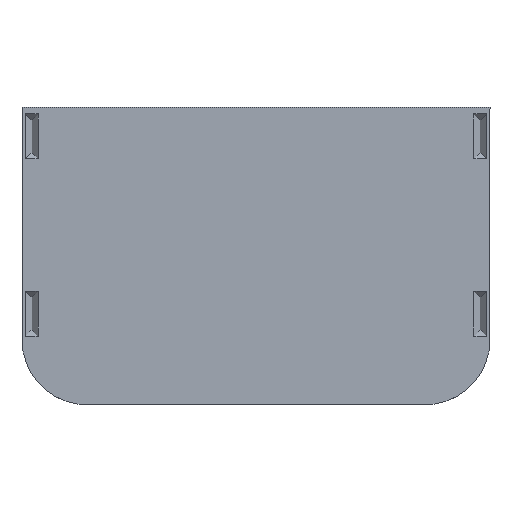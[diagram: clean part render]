
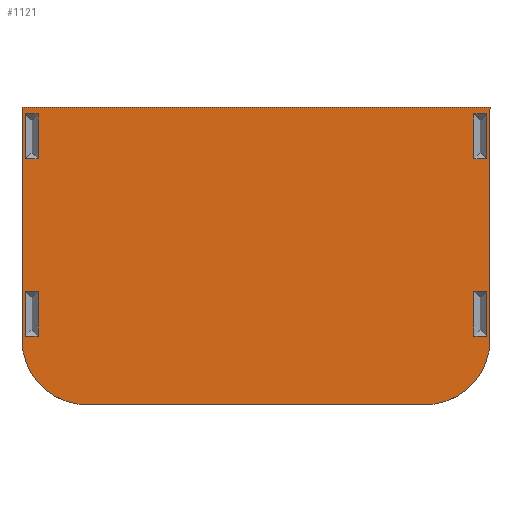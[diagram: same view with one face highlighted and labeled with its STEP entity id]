
A CAD part, top view. The second image highlights one B-rep face of the part: STEP entity #1121.
In plain terms, the highlighted planar face has unit normal (0, 0, 1).
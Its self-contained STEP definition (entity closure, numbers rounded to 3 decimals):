
#24=FACE_BOUND('',#233,.T.);
#25=FACE_BOUND('',#234,.T.);
#26=FACE_BOUND('',#235,.T.);
#27=FACE_BOUND('',#236,.T.);
#91=PLANE('',#1224);
#159=FACE_OUTER_BOUND('',#232,.T.);
#232=EDGE_LOOP('',(#1024,#1025,#1026,#1027,#1028,#1029));
#233=EDGE_LOOP('',(#1030,#1031,#1032,#1033));
#234=EDGE_LOOP('',(#1034,#1035,#1036,#1037));
#235=EDGE_LOOP('',(#1038,#1039,#1040,#1041));
#236=EDGE_LOOP('',(#1042,#1043,#1044,#1045));
#291=LINE('',#1704,#416);
#297=LINE('',#1715,#422);
#299=LINE('',#1719,#424);
#300=LINE('',#1721,#425);
#311=LINE('',#1745,#436);
#314=LINE('',#1750,#439);
#322=LINE('',#1768,#447);
#327=LINE('',#1777,#452);
#330=LINE('',#1783,#455);
#331=LINE('',#1785,#456);
#342=LINE('',#1809,#467);
#345=LINE('',#1814,#470);
#346=LINE('',#1817,#471);
#348=LINE('',#1820,#473);
#349=LINE('',#1823,#474);
#351=LINE('',#1826,#476);
#353=LINE('',#1831,#478);
#356=LINE('',#1836,#481);
#358=LINE('',#1840,#483);
#361=LINE('',#1848,#486);
#416=VECTOR('',#1384,10.);
#422=VECTOR('',#1396,10.);
#424=VECTOR('',#1400,10.);
#425=VECTOR('',#1403,10.);
#436=VECTOR('',#1424,10.);
#439=VECTOR('',#1429,10.);
#447=VECTOR('',#1443,10.);
#452=VECTOR('',#1452,10.);
#455=VECTOR('',#1459,10.);
#456=VECTOR('',#1462,10.);
#467=VECTOR('',#1483,10.);
#470=VECTOR('',#1488,10.);
#471=VECTOR('',#1491,10.);
#473=VECTOR('',#1495,10.);
#474=VECTOR('',#1498,10.);
#476=VECTOR('',#1502,10.);
#478=VECTOR('',#1506,10.);
#481=VECTOR('',#1511,10.);
#483=VECTOR('',#1515,10.);
#486=VECTOR('',#1524,10.);
#505=CIRCLE('',#1220,29.);
#506=CIRCLE('',#1223,29.);
#558=VERTEX_POINT('',#1701);
#559=VERTEX_POINT('',#1703);
#561=VERTEX_POINT('',#1713);
#562=VERTEX_POINT('',#1717);
#569=VERTEX_POINT('',#1742);
#570=VERTEX_POINT('',#1744);
#571=VERTEX_POINT('',#1748);
#577=VERTEX_POINT('',#1765);
#578=VERTEX_POINT('',#1767);
#580=VERTEX_POINT('',#1775);
#581=VERTEX_POINT('',#1781);
#588=VERTEX_POINT('',#1806);
#589=VERTEX_POINT('',#1808);
#590=VERTEX_POINT('',#1812);
#591=VERTEX_POINT('',#1816);
#592=VERTEX_POINT('',#1822);
#593=VERTEX_POINT('',#1828);
#594=VERTEX_POINT('',#1830);
#595=VERTEX_POINT('',#1834);
#596=VERTEX_POINT('',#1838);
#597=VERTEX_POINT('',#1842);
#598=VERTEX_POINT('',#1846);
#675=EDGE_CURVE('',#559,#558,#291,.T.);
#681=EDGE_CURVE('',#558,#561,#297,.T.);
#683=EDGE_CURVE('',#561,#562,#299,.T.);
#684=EDGE_CURVE('',#562,#559,#300,.T.);
#695=EDGE_CURVE('',#570,#569,#311,.T.);
#698=EDGE_CURVE('',#569,#571,#314,.T.);
#706=EDGE_CURVE('',#578,#577,#322,.T.);
#711=EDGE_CURVE('',#577,#580,#327,.T.);
#714=EDGE_CURVE('',#580,#581,#330,.T.);
#715=EDGE_CURVE('',#581,#578,#331,.T.);
#726=EDGE_CURVE('',#589,#588,#342,.T.);
#729=EDGE_CURVE('',#588,#590,#345,.T.);
#730=EDGE_CURVE('',#591,#589,#346,.T.);
#732=EDGE_CURVE('',#590,#591,#348,.T.);
#733=EDGE_CURVE('',#592,#570,#349,.T.);
#735=EDGE_CURVE('',#571,#592,#351,.T.);
#737=EDGE_CURVE('',#593,#594,#353,.T.);
#740=EDGE_CURVE('',#595,#593,#356,.T.);
#742=EDGE_CURVE('',#596,#595,#358,.T.);
#744=EDGE_CURVE('',#597,#596,#505,.T.);
#746=EDGE_CURVE('',#598,#597,#361,.T.);
#747=EDGE_CURVE('',#594,#598,#506,.T.);
#1024=ORIENTED_EDGE('',*,*,#747,.F.);
#1025=ORIENTED_EDGE('',*,*,#737,.F.);
#1026=ORIENTED_EDGE('',*,*,#740,.F.);
#1027=ORIENTED_EDGE('',*,*,#742,.F.);
#1028=ORIENTED_EDGE('',*,*,#744,.F.);
#1029=ORIENTED_EDGE('',*,*,#746,.F.);
#1030=ORIENTED_EDGE('',*,*,#729,.T.);
#1031=ORIENTED_EDGE('',*,*,#732,.T.);
#1032=ORIENTED_EDGE('',*,*,#730,.T.);
#1033=ORIENTED_EDGE('',*,*,#726,.T.);
#1034=ORIENTED_EDGE('',*,*,#698,.T.);
#1035=ORIENTED_EDGE('',*,*,#735,.T.);
#1036=ORIENTED_EDGE('',*,*,#733,.T.);
#1037=ORIENTED_EDGE('',*,*,#695,.T.);
#1038=ORIENTED_EDGE('',*,*,#706,.T.);
#1039=ORIENTED_EDGE('',*,*,#711,.T.);
#1040=ORIENTED_EDGE('',*,*,#714,.T.);
#1041=ORIENTED_EDGE('',*,*,#715,.T.);
#1042=ORIENTED_EDGE('',*,*,#683,.T.);
#1043=ORIENTED_EDGE('',*,*,#684,.T.);
#1044=ORIENTED_EDGE('',*,*,#675,.T.);
#1045=ORIENTED_EDGE('',*,*,#681,.T.);
#1121=ADVANCED_FACE('',(#159,#24,#25,#26,#27),#91,.F.);
#1220=AXIS2_PLACEMENT_3D('',#1844,#1519,#1520);
#1223=AXIS2_PLACEMENT_3D('',#1850,#1527,#1528);
#1224=AXIS2_PLACEMENT_3D('',#1851,#1529,#1530);
#1384=DIRECTION('',(0.,1.,0.));
#1396=DIRECTION('',(1.,0.,0.));
#1400=DIRECTION('',(0.,-1.,0.));
#1403=DIRECTION('',(-1.,0.,0.));
#1424=DIRECTION('',(0.,1.,0.));
#1429=DIRECTION('',(1.,0.,0.));
#1443=DIRECTION('',(0.,1.,0.));
#1452=DIRECTION('',(1.,0.,0.));
#1459=DIRECTION('',(0.,-1.,0.));
#1462=DIRECTION('',(-1.,0.,0.));
#1483=DIRECTION('',(0.,-1.,0.));
#1488=DIRECTION('',(-1.,0.,0.));
#1491=DIRECTION('',(1.,0.,0.));
#1495=DIRECTION('',(0.,1.,0.));
#1498=DIRECTION('',(-1.,0.,0.));
#1502=DIRECTION('',(0.,-1.,0.));
#1506=DIRECTION('',(0.,-1.,0.));
#1511=DIRECTION('',(1.,0.,0.));
#1515=DIRECTION('',(0.,1.,0.));
#1519=DIRECTION('center_axis',(0.,0.,-1.));
#1520=DIRECTION('ref_axis',(0.,-1.,0.));
#1524=DIRECTION('',(-1.,0.,0.));
#1527=DIRECTION('center_axis',(0.,0.,-1.));
#1528=DIRECTION('ref_axis',(1.,0.,0.));
#1529=DIRECTION('center_axis',(0.,0.,-1.));
#1530=DIRECTION('ref_axis',(1.,0.,0.));
#1701=CARTESIAN_POINT('',(96.8,21.5,-1.));
#1703=CARTESIAN_POINT('',(96.8,1.5,-1.));
#1704=CARTESIAN_POINT('',(96.8,19.325,-1.));
#1713=CARTESIAN_POINT('',(102.5,21.5,-1.));
#1715=CARTESIAN_POINT('',(48.4,21.5,-1.));
#1717=CARTESIAN_POINT('',(102.5,1.5,-1.));
#1719=CARTESIAN_POINT('',(102.5,29.325,-1.));
#1721=CARTESIAN_POINT('',(51.25,1.5,-1.));
#1742=CARTESIAN_POINT('',(96.8,100.3,-1.));
#1744=CARTESIAN_POINT('',(96.8,80.3,-1.));
#1745=CARTESIAN_POINT('',(96.8,58.725,-1.));
#1748=CARTESIAN_POINT('',(102.5,100.3,-1.));
#1750=CARTESIAN_POINT('',(48.4,100.3,-1.));
#1765=CARTESIAN_POINT('',(-102.5,100.3,-1.));
#1767=CARTESIAN_POINT('',(-102.5,80.3,-1.));
#1768=CARTESIAN_POINT('',(-102.5,58.725,-1.));
#1775=CARTESIAN_POINT('',(-96.8,100.3,-1.));
#1777=CARTESIAN_POINT('',(-51.25,100.3,-1.));
#1781=CARTESIAN_POINT('',(-96.8,80.3,-1.));
#1783=CARTESIAN_POINT('',(-96.8,68.725,-1.));
#1785=CARTESIAN_POINT('',(-48.4,80.3,-1.));
#1806=CARTESIAN_POINT('',(-96.8,1.5,-1.));
#1808=CARTESIAN_POINT('',(-96.8,21.5,-1.));
#1809=CARTESIAN_POINT('',(-96.8,29.325,-1.));
#1812=CARTESIAN_POINT('',(-102.5,1.5,-1.));
#1814=CARTESIAN_POINT('',(-48.4,1.5,-1.));
#1816=CARTESIAN_POINT('',(-102.5,21.5,-1.));
#1817=CARTESIAN_POINT('',(-51.25,21.5,-1.));
#1820=CARTESIAN_POINT('',(-102.5,19.325,-1.));
#1822=CARTESIAN_POINT('',(102.5,80.3,-1.));
#1823=CARTESIAN_POINT('',(51.25,80.3,-1.));
#1826=CARTESIAN_POINT('',(102.5,68.725,-1.));
#1828=CARTESIAN_POINT('',(104.,103.3,-1.));
#1830=CARTESIAN_POINT('',(104.,0.,-1.));
#1831=CARTESIAN_POINT('',(104.,103.3,-1.));
#1834=CARTESIAN_POINT('',(-104.,103.3,-1.));
#1836=CARTESIAN_POINT('',(-104.,103.3,-1.));
#1838=CARTESIAN_POINT('',(-104.,0.,-1.));
#1840=CARTESIAN_POINT('',(-104.,0.,-1.));
#1842=CARTESIAN_POINT('',(-75.,-29.,-1.));
#1844=CARTESIAN_POINT('Origin',(-75.,0.,
-1.));
#1846=CARTESIAN_POINT('',(75.,-29.,-1.));
#1848=CARTESIAN_POINT('',(75.,-29.,-1.));
#1850=CARTESIAN_POINT('Origin',(75.,0.,-1.));
#1851=CARTESIAN_POINT('Origin',(0.,37.15,
-1.));
